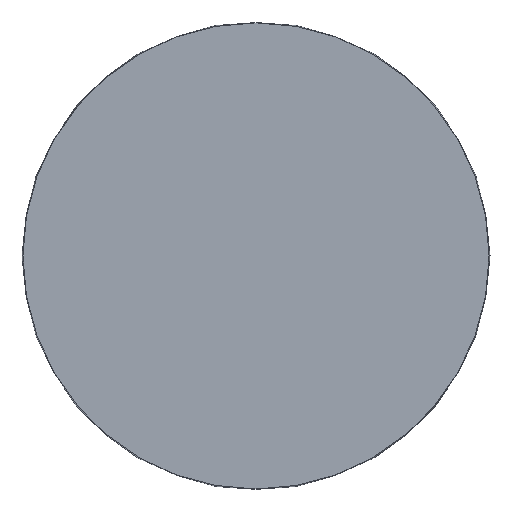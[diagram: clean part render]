
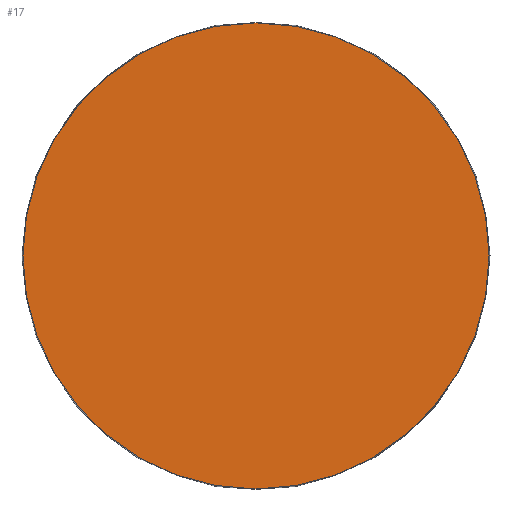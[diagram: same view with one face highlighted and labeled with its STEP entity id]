
A CAD part, top view. The second image highlights one B-rep face of the part: STEP entity #17.
In plain terms, the highlighted planar face has unit normal (0, 0, 1).
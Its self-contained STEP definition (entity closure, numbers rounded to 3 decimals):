
#17 = ADVANCED_FACE('',(#18),#29,.T.);
#18 = FACE_BOUND('',#19,.F.);
#19 = EDGE_LOOP('',(#20));
#20 = ORIENTED_EDGE('',*,*,#21,.F.);
#21 = EDGE_CURVE('',#22,#22,#24,.T.);
#22 = VERTEX_POINT('',#23);
#23 = CARTESIAN_POINT('',(0.,-52.,0.));
#24 = CIRCLE('',#25,52.);
#25 = AXIS2_PLACEMENT_3D('',#26,#27,#28);
#26 = CARTESIAN_POINT('',(0.,0.,0.));
#27 = DIRECTION('',(-0.,0.,1.));
#28 = DIRECTION('',(0.,-1.,0.));
#29 = PLANE('',#30);
#30 = AXIS2_PLACEMENT_3D('',#31,#32,#33);
#31 = CARTESIAN_POINT('',(0.,0.,0.));
#32 = DIRECTION('',(0.,0.,1.));
#33 = DIRECTION('',(0.,-1.,0.));
